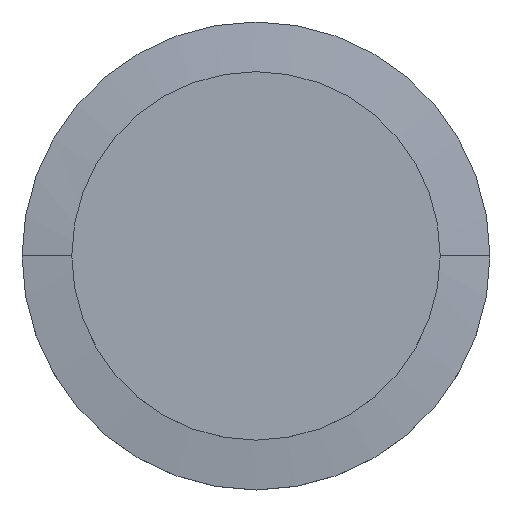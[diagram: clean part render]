
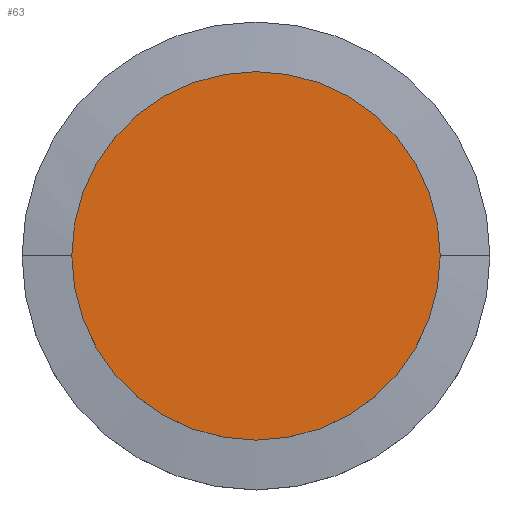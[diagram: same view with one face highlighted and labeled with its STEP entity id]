
A CAD part, top view. The second image highlights one B-rep face of the part: STEP entity #63.
In plain terms, the highlighted planar face has unit normal (0, 0, 1).
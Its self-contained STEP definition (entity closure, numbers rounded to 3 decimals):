
#63=ADVANCED_FACE('',(#83),#84,.T.);
#83=FACE_OUTER_BOUND('',#103,.T.);
#84=PLANE('',#104);
#103=EDGE_LOOP('',(#162,#163));
#104=AXIS2_PLACEMENT_3D('',#164,#165,#166);
#162=ORIENTED_EDGE('',*,*,#180,.T.);
#163=ORIENTED_EDGE('',*,*,#181,.T.);
#164=CARTESIAN_POINT('',(0.0,0.0,8.5));
#165=DIRECTION('',(0.0,0.0,1.0));
#166=DIRECTION('',(1.0,0.0,0.0));
#180=EDGE_CURVE('',#200,#204,#206,.T.);
#181=EDGE_CURVE('',#204,#200,#207,.T.);
#200=VERTEX_POINT('',#228);
#204=VERTEX_POINT('',#233);
#206=CIRCLE('',#236,10.0);
#207=CIRCLE('',#237,10.0);
#228=CARTESIAN_POINT('',(10.0,0.0,8.5));
#233=CARTESIAN_POINT('',(-10.0,0.,8.5));
#236=AXIS2_PLACEMENT_3D('',#270,#271,#272);
#237=AXIS2_PLACEMENT_3D('',#273,#274,#275);
#270=CARTESIAN_POINT('',(0.0,0.0,8.5));
#271=DIRECTION('',(0.0,0.0,1.0));
#272=DIRECTION('',(1.0,0.0,0.0));
#273=CARTESIAN_POINT('',(0.0,0.0,8.5));
#274=DIRECTION('',(0.0,0.0,1.0));
#275=DIRECTION('',(1.0,0.0,0.0));
